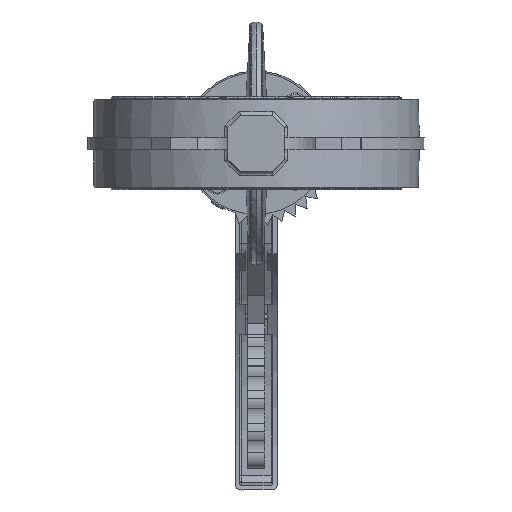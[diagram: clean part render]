
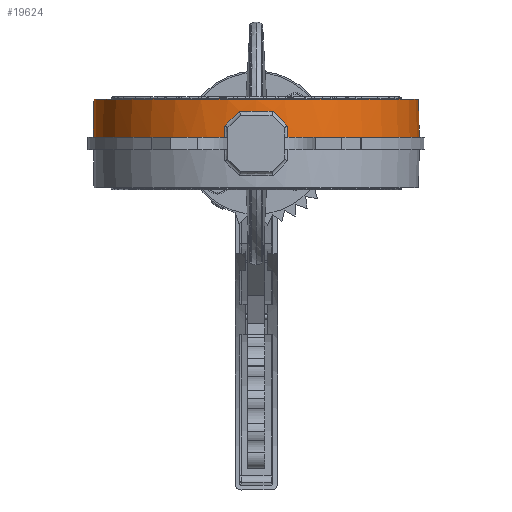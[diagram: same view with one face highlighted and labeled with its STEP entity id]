
A CAD part, front view. The second image highlights one B-rep face of the part: STEP entity #19624.
In plain terms, the highlighted conical face has half-angle 1 degrees and reference radius 103.489 mm.
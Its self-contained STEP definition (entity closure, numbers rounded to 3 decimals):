
#712 = CARTESIAN_POINT ( 'NONE',  ( 10.774, -102.567, 20.456 ) ) ;
#2230 = CARTESIAN_POINT ( 'NONE',  ( 20.016, -101.463, 4. ) ) ;
#2528 = VERTEX_POINT ( 'NONE', #16530 ) ;
#3070 = CARTESIAN_POINT ( 'NONE',  ( -20.016, -101.339, 10.992 ) ) ;
#3157 = ORIENTED_EDGE ( 'NONE', *, *, #71189, .F. ) ;
#3775 = EDGE_CURVE ( 'NONE', #12451, #6889, #20883, .T. ) ;
#3920 = VERTEX_POINT ( 'NONE', #26772 ) ;
#4781 = EDGE_CURVE ( 'NONE', #62717, #65173, #53870, .T. ) ;
#4814 = ORIENTED_EDGE ( 'NONE', *, *, #4781, .T. ) ;
#4951 = CARTESIAN_POINT ( 'NONE',  ( -20.016, -101.339, 10.992 ) ) ;
#5789 = CARTESIAN_POINT ( 'NONE',  ( -20.016, -101.339, 10.992 ) ) ;
#6857 = CARTESIAN_POINT ( 'NONE',  ( 47.67, -91.964, 4. ) ) ;
#6889 = VERTEX_POINT ( 'NONE', #54571 ) ;
#7038 = LINE ( 'NONE', #30860, #8320 ) ;
#7307 = CARTESIAN_POINT ( 'NONE',  ( 52.731, -88.997, 4. ) ) ;
#7980 = CARTESIAN_POINT ( 'NONE',  ( 31.421, -98.704, 4. ) ) ;
#8238 = CARTESIAN_POINT ( 'NONE',  ( 3.618, -103.319, 20.456 ) ) ;
#8308 = ORIENTED_EDGE ( 'NONE', *, *, #63265, .F. ) ;
#8320 = VECTOR ( 'NONE', #46657, 1000. ) ;
#8376 = EDGE_CURVE ( 'NONE', #2528, #35019, #41949, .T. ) ;
#10567 = CARTESIAN_POINT ( 'NONE',  ( 20.016, -101.339, 10.992 ) ) ;
#10847 = VERTEX_POINT ( 'NONE', #15941 ) ;
#11565 = CIRCLE ( 'NONE', #17714, 103.419 ) ;
#12199 = CARTESIAN_POINT ( 'NONE',  ( -13.869, -102.298, 17.302 ) ) ;
#12278 = CARTESIAN_POINT ( 'NONE',  ( -20.016, -101.463, 4. ) ) ;
#12339 = EDGE_LOOP ( 'NONE', ( #38816, #64116, #3157, #62173, #18671, #36866, #33009, #61919, #21323, #4814, #8308, #63337 ) ) ;
#12415 = CONICAL_SURFACE ( 'NONE', #75151, 103.489, 0.017 ) ;
#12451 = VERTEX_POINT ( 'NONE', #5789 ) ;
#13853 = DIRECTION ( 'NONE',  ( 0., 0., -1. ) ) ;
#15941 = CARTESIAN_POINT ( 'NONE',  ( 103.419, 0., 4. ) ) ;
#16455 = CARTESIAN_POINT ( 'NONE',  ( -16.953, -101.888, 14.147 ) ) ;
#16530 = CARTESIAN_POINT ( 'NONE',  ( -52.713, -88.977, 4. ) ) ;
#16616 = B_SPLINE_CURVE_WITH_KNOTS ( 'NONE', 3,
 ( #45267, #46435, #68442, #4951 ),
 .UNSPECIFIED., .F., .F.,
 ( 4, 4 ),
 ( 0., 1. ),
 .UNSPECIFIED. ) ;
#17596 = CARTESIAN_POINT ( 'NONE',  ( 20.016, -101.463, 4. ) ) ;
#17714 = AXIS2_PLACEMENT_3D ( 'NONE', #51119, #74654, #55763 ) ;
#18671 = ORIENTED_EDGE ( 'NONE', *, *, #43963, .T. ) ;
#19501 = CARTESIAN_POINT ( 'NONE',  ( -103., 0., 27.996 ) ) ;
#19624 = ADVANCED_FACE ( 'NONE', ( #27314 ), #12415, .T. ) ;
#20194 = VERTEX_POINT ( 'NONE', #40552 ) ;
#20368 = CARTESIAN_POINT ( 'NONE',  ( 0., 0., 4. ) ) ;
#20431 = EDGE_CURVE ( 'NONE', #6889, #71466, #46013, .T. ) ;
#20477 = CARTESIAN_POINT ( 'NONE',  ( -47.67, -91.964, 4. ) ) ;
#20883 = B_SPLINE_CURVE_WITH_KNOTS ( 'NONE', 3,
 ( #3070, #16455, #12199, #40287 ),
 .UNSPECIFIED., .F., .F.,
 ( 4, 4 ),
 ( 0., 1. ),
 .UNSPECIFIED. ) ;
#21323 = ORIENTED_EDGE ( 'NONE', *, *, #55385, .T. ) ;
#21688 = AXIS2_PLACEMENT_3D ( 'NONE', #20368, #13853, #49246 ) ;
#22768 = CARTESIAN_POINT ( 'NONE',  ( 20.016, -101.339, 10.992 ) ) ;
#24588 = CARTESIAN_POINT ( 'NONE',  ( -25.767, -100.329, 4. ) ) ;
#25257 = CARTESIAN_POINT ( 'NONE',  ( 52.731, -88.997, 4. ) ) ;
#26772 = CARTESIAN_POINT ( 'NONE',  ( 20.016, -101.339, 10.992 ) ) ;
#27314 = FACE_OUTER_BOUND ( 'NONE', #12339, .T. ) ;
#27884 = CARTESIAN_POINT ( 'NONE',  ( 20.016, -101.422, 6.331 ) ) ;
#30860 = CARTESIAN_POINT ( 'NONE',  ( -103.489, 0., 0. ) ) ;
#33009 = ORIENTED_EDGE ( 'NONE', *, *, #20431, .T. ) ;
#33137 = LINE ( 'NONE', #45406, #62384 ) ;
#34343 = CARTESIAN_POINT ( 'NONE',  ( 10.774, -102.567, 20.456 ) ) ;
#35019 = VERTEX_POINT ( 'NONE', #58322 ) ;
#35308 = EDGE_CURVE ( 'NONE', #46048, #20194, #48285, .T. ) ;
#35663 = VERTEX_POINT ( 'NONE', #71984 ) ;
#36866 = ORIENTED_EDGE ( 'NONE', *, *, #3775, .T. ) ;
#38178 = CARTESIAN_POINT ( 'NONE',  ( -42.372, -94.522, 4. ) ) ;
#38816 = ORIENTED_EDGE ( 'NONE', *, *, #35308, .F. ) ;
#40287 = CARTESIAN_POINT ( 'NONE',  ( -10.774, -102.567, 20.456 ) ) ;
#40552 = CARTESIAN_POINT ( 'NONE',  ( 103., 0., 27.996 ) ) ;
#41949 = B_SPLINE_CURVE_WITH_KNOTS ( 'NONE', 3,
 ( #73264, #20477, #38178, #61691, #24588, #12278 ),
 .UNSPECIFIED., .F., .F.,
 ( 4, 2, 4 ),
 ( 0., 0.5, 1. ),
 .UNSPECIFIED. ) ;
#42468 = B_SPLINE_CURVE_WITH_KNOTS ( 'NONE', 3,
 ( #10567, #68318, #27884, #68709 ),
 .UNSPECIFIED., .F., .F.,
 ( 4, 4 ),
 ( 0., 1. ),
 .UNSPECIFIED. ) ;
#43963 = EDGE_CURVE ( 'NONE', #35019, #12451, #16616, .T. ) ;
#44990 = DIRECTION ( 'NONE',  ( 0., 0., -1. ) ) ;
#45034 = CIRCLE ( 'NONE', #21688, 103.419 ) ;
#45267 = CARTESIAN_POINT ( 'NONE',  ( -20.016, -101.463, 4. ) ) ;
#45406 = CARTESIAN_POINT ( 'NONE',  ( 103.489, 0., 0. ) ) ;
#46013 = B_SPLINE_CURVE_WITH_KNOTS ( 'NONE', 3,
 ( #67485, #55125, #8238, #67878 ),
 .UNSPECIFIED., .F., .F.,
 ( 4, 4 ),
 ( 0., 1. ),
 .UNSPECIFIED. ) ;
#46048 = VERTEX_POINT ( 'NONE', #19501 ) ;
#46435 = CARTESIAN_POINT ( 'NONE',  ( -20.016, -101.422, 6.331 ) ) ;
#46657 = DIRECTION ( 'NONE',  ( -0.017, 0., -1. ) ) ;
#48285 = CIRCLE ( 'NONE', #58149, 103. ) ;
#49242 = DIRECTION ( 'NONE',  ( 1., 0., 0. ) ) ;
#49246 = DIRECTION ( 'NONE',  ( -1., 0., 0. ) ) ;
#49476 = CARTESIAN_POINT ( 'NONE',  ( 25.767, -100.329, 4. ) ) ;
#50910 = DIRECTION ( 'NONE',  ( 0., 0., 1. ) ) ;
#51119 = CARTESIAN_POINT ( 'NONE',  ( 0., 0., 4. ) ) ;
#53870 = B_SPLINE_CURVE_WITH_KNOTS ( 'NONE', 3,
 ( #2230, #49476, #7980, #65716, #6857, #25257 ),
 .UNSPECIFIED., .F., .F.,
 ( 4, 2, 4 ),
 ( 0., 0.5, 1. ),
 .UNSPECIFIED. ) ;
#54571 = CARTESIAN_POINT ( 'NONE',  ( -10.774, -102.567, 20.456 ) ) ;
#55125 = CARTESIAN_POINT ( 'NONE',  ( -3.618, -103.319, 20.456 ) ) ;
#55385 = EDGE_CURVE ( 'NONE', #3920, #62717, #42468, .T. ) ;
#55763 = DIRECTION ( 'NONE',  ( -1., 0., 0. ) ) ;
#56574 = CARTESIAN_POINT ( 'NONE',  ( 0., 0., 0. ) ) ;
#57824 = CARTESIAN_POINT ( 'NONE',  ( 13.869, -102.298, 17.302 ) ) ;
#58149 = AXIS2_PLACEMENT_3D ( 'NONE', #72903, #50910, #74443 ) ;
#58322 = CARTESIAN_POINT ( 'NONE',  ( -20.016, -101.463, 4. ) ) ;
#58808 = EDGE_CURVE ( 'NONE', #71466, #3920, #59501, .T. ) ;
#59501 = B_SPLINE_CURVE_WITH_KNOTS ( 'NONE', 3,
 ( #34343, #57824, #62462, #22768 ),
 .UNSPECIFIED., .F., .F.,
 ( 4, 4 ),
 ( 0., 1. ),
 .UNSPECIFIED. ) ;
#61691 = CARTESIAN_POINT ( 'NONE',  ( -31.421, -98.704, 4. ) ) ;
#61919 = ORIENTED_EDGE ( 'NONE', *, *, #58808, .T. ) ;
#62173 = ORIENTED_EDGE ( 'NONE', *, *, #8376, .T. ) ;
#62384 = VECTOR ( 'NONE', #68198, 1000. ) ;
#62462 = CARTESIAN_POINT ( 'NONE',  ( 16.953, -101.888, 14.147 ) ) ;
#62717 = VERTEX_POINT ( 'NONE', #17596 ) ;
#63265 = EDGE_CURVE ( 'NONE', #10847, #65173, #11565, .T. ) ;
#63337 = ORIENTED_EDGE ( 'NONE', *, *, #73114, .F. ) ;
#64116 = ORIENTED_EDGE ( 'NONE', *, *, #72904, .T. ) ;
#65173 = VERTEX_POINT ( 'NONE', #7307 ) ;
#65716 = CARTESIAN_POINT ( 'NONE',  ( 42.372, -94.522, 4. ) ) ;
#67485 = CARTESIAN_POINT ( 'NONE',  ( -10.774, -102.567, 20.456 ) ) ;
#67878 = CARTESIAN_POINT ( 'NONE',  ( 10.774, -102.567, 20.456 ) ) ;
#68198 = DIRECTION ( 'NONE',  ( 0.017, 0., -1. ) ) ;
#68318 = CARTESIAN_POINT ( 'NONE',  ( 20.016, -101.38, 8.661 ) ) ;
#68442 = CARTESIAN_POINT ( 'NONE',  ( -20.016, -101.38, 8.661 ) ) ;
#68709 = CARTESIAN_POINT ( 'NONE',  ( 20.016, -101.463, 4. ) ) ;
#71189 = EDGE_CURVE ( 'NONE', #2528, #35663, #45034, .T. ) ;
#71466 = VERTEX_POINT ( 'NONE', #712 ) ;
#71984 = CARTESIAN_POINT ( 'NONE',  ( -103.419, 0., 4. ) ) ;
#72903 = CARTESIAN_POINT ( 'NONE',  ( 0., 0., 27.996 ) ) ;
#72904 = EDGE_CURVE ( 'NONE', #46048, #35663, #7038, .T. ) ;
#73114 = EDGE_CURVE ( 'NONE', #20194, #10847, #33137, .T. ) ;
#73264 = CARTESIAN_POINT ( 'NONE',  ( -52.713, -88.977, 4. ) ) ;
#74443 = DIRECTION ( 'NONE',  ( 1., 0., 0. ) ) ;
#74654 = DIRECTION ( 'NONE',  ( 0., 0., -1. ) ) ;
#75151 = AXIS2_PLACEMENT_3D ( 'NONE', #56574, #44990, #49242 ) ;
